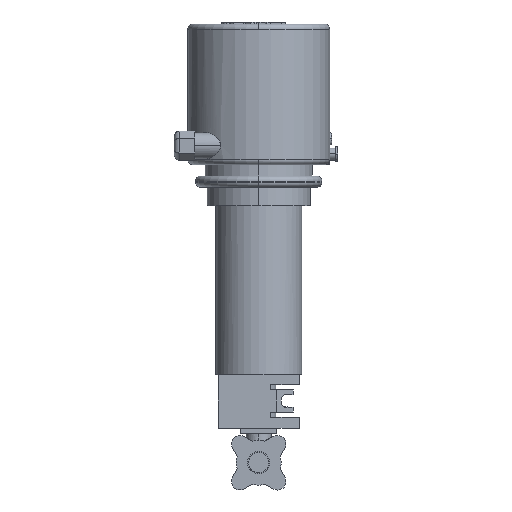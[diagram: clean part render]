
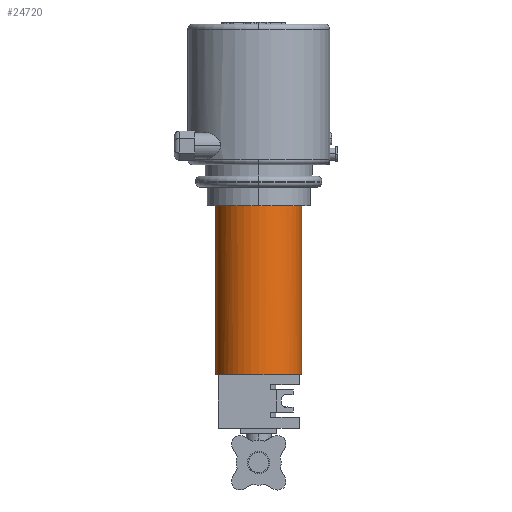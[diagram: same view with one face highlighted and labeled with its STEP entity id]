
A CAD part, left-side view. The second image highlights one B-rep face of the part: STEP entity #24720.
In plain terms, the highlighted cylindrical face has radius 42.5 mm (diameter 85 mm), a partial arc.
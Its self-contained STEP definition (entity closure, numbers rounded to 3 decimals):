
#12650=CARTESIAN_POINT('',(-27.861,-24.06,
6.422));
#12660=VERTEX_POINT('',#12650);
#13200=CARTESIAN_POINT('',(-13.5,4.225,34.707));
#13210=DIRECTION('',(0.,0.707,
-0.707));
#13220=DIRECTION('',(0.,-0.707,
-0.707));
#13230=AXIS2_PLACEMENT_3D('',#13200,#13210,#13220);
#13240=CIRCLE('',#13230,42.5);
#18380=CARTESIAN_POINT('',(-27.861,32.509,
62.991));
#18390=VERTEX_POINT('',#18380);
#18940=CARTESIAN_POINT('',(-53.5,14.38,
44.862));
#18950=VERTEX_POINT('',#18940);
#19020=CARTESIAN_POINT('',(-53.5,-5.93,
24.552));
#19030=VERTEX_POINT('',#19020);
#24110=EDGE_CURVE('',#18950,#18390,#13240,.T.);
#24250=EDGE_CURVE('',#12660,#19030,#13240,.T.);
#24300=CARTESIAN_POINT('',(-13.5,-54.819,
93.75));
#24310=DIRECTION('',(0.,0.707,
-0.707));
#24320=DIRECTION('',(0.,-0.707,
-0.707));
#24330=AXIS2_PLACEMENT_3D('',#24300,#24310,#24320);
#24340=CYLINDRICAL_SURFACE('',#24330,42.5);
#24350=ORIENTED_EDGE('',*,*,#24250,.F.);
#24360=EDGE_CURVE('',#19030,#18950,#13240,.T.);
#24370=ORIENTED_EDGE('',*,*,#24360,.F.);
#24380=ORIENTED_EDGE('',*,*,#24110,.F.);
#24390=CARTESIAN_POINT('',(-13.5,34.277,
64.759));
#24400=VERTEX_POINT('',#24390);
#24410=EDGE_CURVE('',#18390,#24400,#13240,.T.);
#24420=ORIENTED_EDGE('',*,*,#24410,.F.);
#24430=CARTESIAN_POINT('',(-13.5,-24.767,123.802));
#24440=DIRECTION('',(0.,0.707,
-0.707));
#24450=VECTOR('',#24440,1.);
#24460=LINE('',#24430,#24450);
#24470=CARTESIAN_POINT('',(-13.5,-83.81,
182.846));
#24480=VERTEX_POINT('',#24470);
#24490=EDGE_CURVE('',#24480,#24400,#24460,.T.);
#24500=ORIENTED_EDGE('',*,*,#24490,.T.);
#24510=CARTESIAN_POINT('',(-13.5,-113.862,
152.794));
#24520=DIRECTION('',(0.,-0.707,
0.707));
#24530=DIRECTION('',(0.,-0.707,
-0.707));
#24540=AXIS2_PLACEMENT_3D('',#24510,#24520,#24530);
#24550=CIRCLE('',#24540,42.5);
#24560=CARTESIAN_POINT('',(-13.5,-143.914,
122.741));
#24570=VERTEX_POINT('',#24560);
#24580=EDGE_CURVE('',#24480,#24570,#24550,.T.);
#24590=ORIENTED_EDGE('',*,*,#24580,.F.);
#24600=CARTESIAN_POINT('',(-13.5,-84.871,
63.698));
#24610=DIRECTION('',(0.,0.707,
-0.707));
#24620=VECTOR('',#24610,1.);
#24630=LINE('',#24600,#24620);
#24640=CARTESIAN_POINT('',(-13.5,-25.827,4.655));
#24650=VERTEX_POINT('',#24640);
#24660=EDGE_CURVE('',#24570,#24650,#24630,.T.);
#24670=ORIENTED_EDGE('',*,*,#24660,.F.);
#24680=EDGE_CURVE('',#24650,#12660,#13240,.T.);
#24690=ORIENTED_EDGE('',*,*,#24680,.F.);
#24700=EDGE_LOOP('',(#24690,#24670,#24590,#24500,#24420,#24380,#24370,
#24350));
#24710=FACE_OUTER_BOUND('',#24700,.T.);
#24720=ADVANCED_FACE('',(#24710),#24340,.T.);
